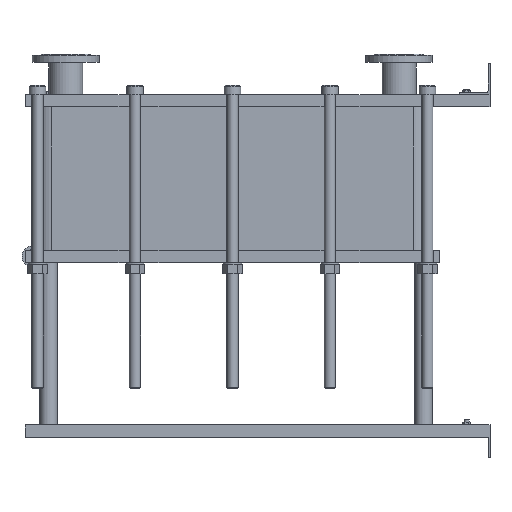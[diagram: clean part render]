
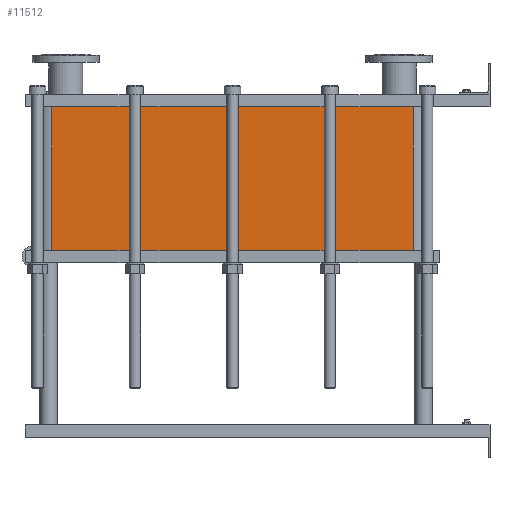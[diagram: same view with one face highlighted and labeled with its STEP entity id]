
A CAD part, left-side view. The second image highlights one B-rep face of the part: STEP entity #11512.
In plain terms, the highlighted planar face has unit normal (-1, 0, 0).
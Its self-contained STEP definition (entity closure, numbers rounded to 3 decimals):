
#1129=LINE('',#23232,#2102);
#1130=LINE('',#23236,#2103);
#1131=LINE('',#23238,#2104);
#1132=LINE('',#23239,#2105);
#2102=VECTOR('',#15887,10.);
#2103=VECTOR('',#15892,10.);
#2104=VECTOR('',#15893,10.);
#2105=VECTOR('',#15894,10.);
#3267=FACE_OUTER_BOUND('',#4093,.T.);
#4093=EDGE_LOOP('',(#10103,#10104,#10105,#10106));
#5642=VERTEX_POINT('',#23229);
#5643=VERTEX_POINT('',#23231);
#5644=VERTEX_POINT('',#23235);
#5645=VERTEX_POINT('',#23237);
#7159=EDGE_CURVE('',#5643,#5642,#1129,.T.);
#7161=EDGE_CURVE('',#5642,#5644,#1130,.T.);
#7162=EDGE_CURVE('',#5645,#5644,#1131,.T.);
#7163=EDGE_CURVE('',#5645,#5643,#1132,.T.);
#10103=ORIENTED_EDGE('',*,*,#7161,.T.);
#10104=ORIENTED_EDGE('',*,*,#7162,.F.);
#10105=ORIENTED_EDGE('',*,*,#7163,.T.);
#10106=ORIENTED_EDGE('',*,*,#7159,.T.);
#10857=PLANE('',#12751);
#11512=ADVANCED_FACE('',(#3267),#10857,.T.);
#12751=AXIS2_PLACEMENT_3D('',#23234,#15890,#15891);
#15887=DIRECTION('',(0.,0.,-1.));
#15890=DIRECTION('center_axis',(-1.,0.,0.));
#15891=DIRECTION('ref_axis',(0.,1.,0.));
#15892=DIRECTION('',(0.,-1.,0.));
#15893=DIRECTION('',(0.,0.,-1.));
#15894=DIRECTION('',(0.,1.,0.));
#23229=CARTESIAN_POINT('',(-200.,1414.,-462.3));
#23231=CARTESIAN_POINT('',(-200.,1414.,0.));
#23232=CARTESIAN_POINT('',(-200.,1414.,0.));
#23234=CARTESIAN_POINT('Origin',(-200.,248.,0.));
#23235=CARTESIAN_POINT('',(-200.,248.,-462.3));
#23236=CARTESIAN_POINT('',(-200.,539.5,-462.3));
#23237=CARTESIAN_POINT('',(-200.,248.,0.));
#23238=CARTESIAN_POINT('',(-200.,248.,0.));
#23239=CARTESIAN_POINT('',(-200.,248.,0.));
